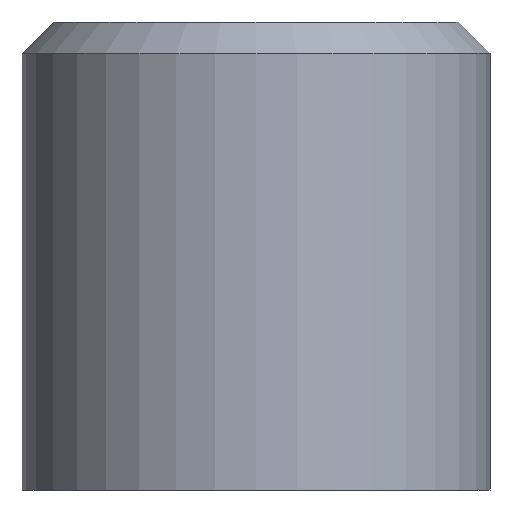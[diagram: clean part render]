
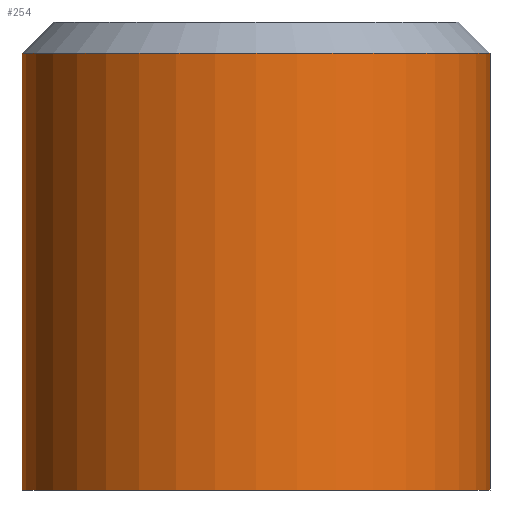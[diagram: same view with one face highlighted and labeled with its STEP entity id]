
A CAD part, front view. The second image highlights one B-rep face of the part: STEP entity #254.
In plain terms, the highlighted cylindrical face has radius 15 mm (diameter 30 mm), a full revolution.
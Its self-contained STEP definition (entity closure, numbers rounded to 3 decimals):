
#27=FACE_BOUND('',#81,.T.);
#35=B_SPLINE_CURVE_WITH_KNOTS('',3,(#429,#430,#431,#432,#433,#434,#435,
#436,#437,#438),.UNSPECIFIED.,.F.,.F.,(4,2,2,2,4),(0.798,0.998,
1.198,1.397,1.597),.UNSPECIFIED.);
#36=B_SPLINE_CURVE_WITH_KNOTS('',3,(#440,#441,#442,#443,#444,#445,#446,
#447,#448,#449,#450,#451,#452,#453,#454,#455,#456,#457,#458),
 .UNSPECIFIED.,.F.,.F.,(4,2,2,2,3,2,2,2,4),(2.395,2.595,
2.794,2.994,3.194,3.393,3.593,
3.793,3.992),.UNSPECIFIED.);
#37=B_SPLINE_CURVE_WITH_KNOTS('',3,(#459,#460,#461,#462,#463,#464,#465,
#466,#467,#468),.UNSPECIFIED.,.F.,.F.,(4,2,2,2,4),(1.597,1.796,
1.996,2.196,2.395),.UNSPECIFIED.);
#41=CYLINDRICAL_SURFACE('',#309,15.);
#60=FACE_OUTER_BOUND('',#80,.T.);
#80=EDGE_LOOP('',(#210,#211,#212,#213,#214));
#81=EDGE_LOOP('',(#215,#216,#217));
#98=LINE('',#495,#109);
#109=VECTOR('',#375,15.);
#121=CIRCLE('',#304,15.);
#123=CIRCLE('',#307,15.);
#124=CIRCLE('',#308,15.);
#133=VERTEX_POINT('',#427);
#134=VERTEX_POINT('',#428);
#135=VERTEX_POINT('',#439);
#140=VERTEX_POINT('',#484);
#142=VERTEX_POINT('',#489);
#143=VERTEX_POINT('',#491);
#155=EDGE_CURVE('',#133,#134,#35,.T.);
#156=EDGE_CURVE('',#135,#133,#36,.T.);
#157=EDGE_CURVE('',#134,#135,#37,.T.);
#165=EDGE_CURVE('',#140,#140,#121,.T.);
#168=EDGE_CURVE('',#142,#143,#123,.T.);
#169=EDGE_CURVE('',#143,#142,#124,.T.);
#170=EDGE_CURVE('',#143,#140,#98,.T.);
#210=ORIENTED_EDGE('',*,*,#168,.F.);
#211=ORIENTED_EDGE('',*,*,#169,.F.);
#212=ORIENTED_EDGE('',*,*,#170,.T.);
#213=ORIENTED_EDGE('',*,*,#165,.F.);
#214=ORIENTED_EDGE('',*,*,#170,.F.);
#215=ORIENTED_EDGE('',*,*,#155,.T.);
#216=ORIENTED_EDGE('',*,*,#157,.T.);
#217=ORIENTED_EDGE('',*,*,#156,.T.);
#254=ADVANCED_FACE('',(#60,#27),#41,.T.);
#304=AXIS2_PLACEMENT_3D('',#485,#362,#363);
#307=AXIS2_PLACEMENT_3D('',#492,#369,#370);
#308=AXIS2_PLACEMENT_3D('',#493,#371,#372);
#309=AXIS2_PLACEMENT_3D('',#494,#373,#374);
#362=DIRECTION('center_axis',(0.,0.,-1.));
#363=DIRECTION('ref_axis',(1.,0.,0.));
#369=DIRECTION('center_axis',(0.,0.,1.));
#370=DIRECTION('ref_axis',(-1.,0.,0.));
#371=DIRECTION('center_axis',(0.,0.,1.));
#372=DIRECTION('ref_axis',(-1.,0.,0.));
#373=DIRECTION('center_axis',(0.,0.,1.));
#374=DIRECTION('ref_axis',(1.,0.,0.));
#375=DIRECTION('',(0.,0.,-1.));
#427=CARTESIAN_POINT('',(0.,15.,25.25));
#428=CARTESIAN_POINT('',(-5.25,14.051,20.));
#429=CARTESIAN_POINT('Ctrl Pts',(0.,15.,25.25));
#430=CARTESIAN_POINT('Ctrl Pts',(-0.665,15.,25.25));
#431=CARTESIAN_POINT('Ctrl Pts',(-1.371,14.951,25.116));
#432=CARTESIAN_POINT('Ctrl Pts',(-2.663,14.776,24.578));
#433=CARTESIAN_POINT('Ctrl Pts',(-3.249,14.652,24.175));
#434=CARTESIAN_POINT('Ctrl Pts',(-4.175,14.415,23.249));
#435=CARTESIAN_POINT('Ctrl Pts',(-4.578,14.287,22.663));
#436=CARTESIAN_POINT('Ctrl Pts',(-5.116,14.104,21.371));
#437=CARTESIAN_POINT('Ctrl Pts',(-5.25,14.051,20.666));
#438=CARTESIAN_POINT('Ctrl Pts',(-5.25,14.051,20.));
#439=CARTESIAN_POINT('',(0.,15.,14.75));
#440=CARTESIAN_POINT('Ctrl Pts',(0.,15.,14.75));
#441=CARTESIAN_POINT('Ctrl Pts',(0.665,15.,14.75));
#442=CARTESIAN_POINT('Ctrl Pts',(1.371,14.951,14.884));
#443=CARTESIAN_POINT('Ctrl Pts',(2.663,14.776,15.422));
#444=CARTESIAN_POINT('Ctrl Pts',(3.249,14.652,15.825));
#445=CARTESIAN_POINT('Ctrl Pts',(4.175,14.415,16.751));
#446=CARTESIAN_POINT('Ctrl Pts',(4.578,14.287,17.337));
#447=CARTESIAN_POINT('Ctrl Pts',(5.116,14.104,18.629));
#448=CARTESIAN_POINT('Ctrl Pts',(5.25,14.051,19.334));
#449=CARTESIAN_POINT('Ctrl Pts',(5.25,14.051,20.));
#450=CARTESIAN_POINT('Ctrl Pts',(5.25,14.051,20.666));
#451=CARTESIAN_POINT('Ctrl Pts',(5.116,14.104,21.371));
#452=CARTESIAN_POINT('Ctrl Pts',(4.578,14.287,22.663));
#453=CARTESIAN_POINT('Ctrl Pts',(4.175,14.415,23.249));
#454=CARTESIAN_POINT('Ctrl Pts',(3.249,14.652,24.175));
#455=CARTESIAN_POINT('Ctrl Pts',(2.663,14.776,24.578));
#456=CARTESIAN_POINT('Ctrl Pts',(1.371,14.951,25.116));
#457=CARTESIAN_POINT('Ctrl Pts',(0.665,15.,25.25));
#458=CARTESIAN_POINT('Ctrl Pts',(0.,15.,25.25));
#459=CARTESIAN_POINT('Ctrl Pts',(-5.25,14.051,20.));
#460=CARTESIAN_POINT('Ctrl Pts',(-5.25,14.051,19.334));
#461=CARTESIAN_POINT('Ctrl Pts',(-5.116,14.104,18.629));
#462=CARTESIAN_POINT('Ctrl Pts',(-4.578,14.287,17.337));
#463=CARTESIAN_POINT('Ctrl Pts',(-4.175,14.415,16.751));
#464=CARTESIAN_POINT('Ctrl Pts',(-3.249,14.652,15.825));
#465=CARTESIAN_POINT('Ctrl Pts',(-2.663,14.776,15.422));
#466=CARTESIAN_POINT('Ctrl Pts',(-1.371,14.951,14.884));
#467=CARTESIAN_POINT('Ctrl Pts',(-0.665,15.,14.75));
#468=CARTESIAN_POINT('Ctrl Pts',(0.,15.,14.75));
#484=CARTESIAN_POINT('',(-15.,0.,0.));
#485=CARTESIAN_POINT('Origin',(0.,0.,0.));
#489=CARTESIAN_POINT('',(15.,0.,28.));
#491=CARTESIAN_POINT('',(-15.,0.,28.));
#492=CARTESIAN_POINT('Origin',(0.,0.,28.));
#493=CARTESIAN_POINT('Origin',(0.,0.,28.));
#494=CARTESIAN_POINT('Origin',(0.,0.,15.));
#495=CARTESIAN_POINT('',(-15.,0.,15.));
